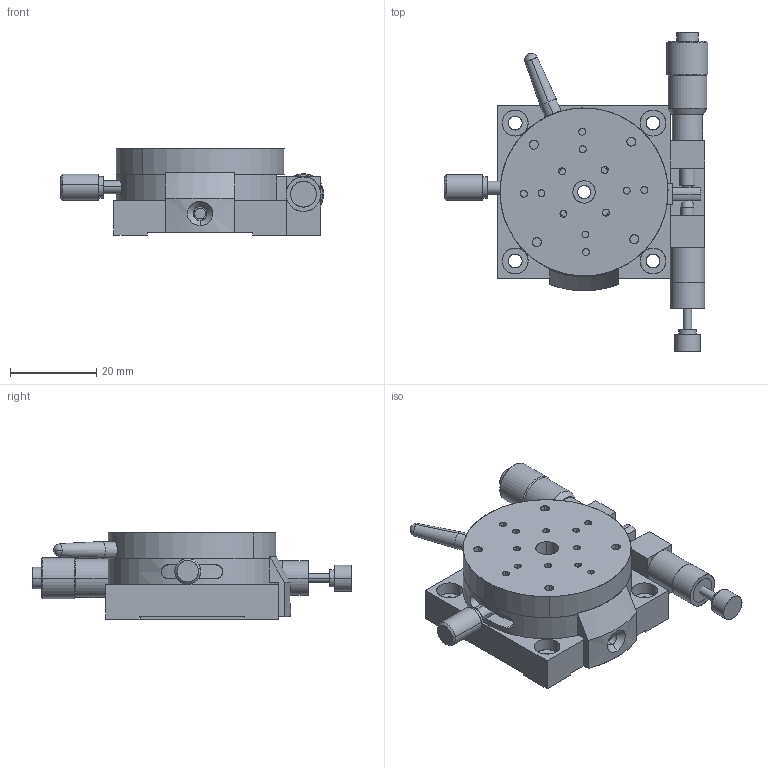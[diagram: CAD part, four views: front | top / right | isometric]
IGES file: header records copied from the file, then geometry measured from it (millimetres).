
Start section: SolidWorks IGES file using analytic representation for surfaces
Bounding box: 61.25 x 74 x 20 mm (x, y, z)
Surface area: 16219.8 mm2 (no closed solid volume)
Topology: 0 solids, 0 shells, 285 faces, 5344 edges, 5340 vertices
Faces by surface type: revolution 190, bspline 95
